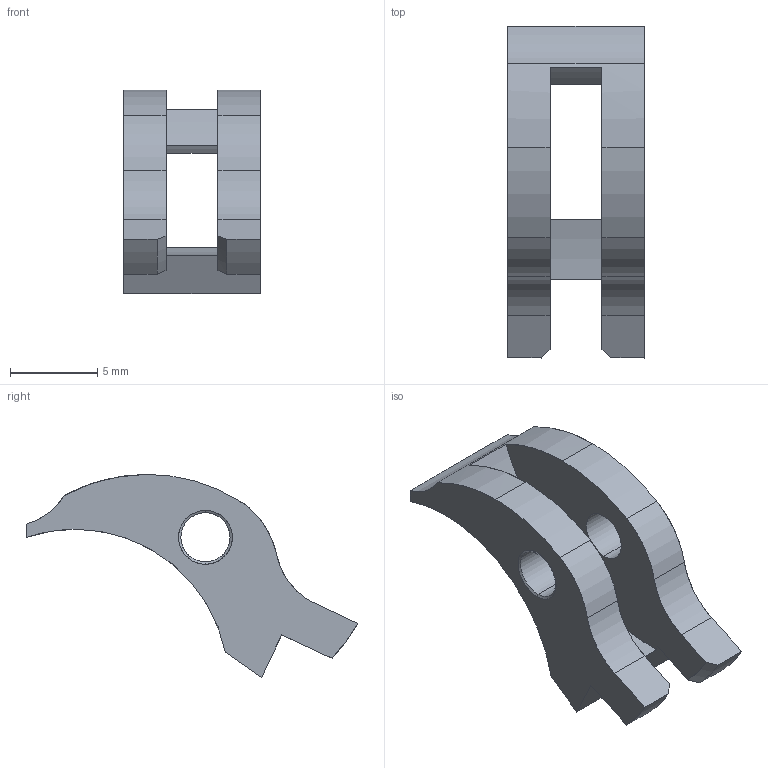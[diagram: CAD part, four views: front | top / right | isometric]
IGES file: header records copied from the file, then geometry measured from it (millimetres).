
Start section: SolidWorks IGES file using analytic representation for surfaces
Global section: file name: \\PSSILO\catalogs\CONTENTCENTRAL\Sear\Cache\9DEB6E07-8CE8-4C89-AF58-8CE32F8C99F3.IGS; native system: SolidWorks 2009; preprocessor: SolidWorks 2009; author: partstream; date: 090214.093802; units: inch
Bounding box: 7.85 x 19.01 x 11.64 mm (x, y, z)
Surface area: 621 mm2 (no closed solid volume)
Topology: 0 solids, 0 shells, 35 faces, 406 edges, 406 vertices
Faces by surface type: revolution 24, bspline 11
